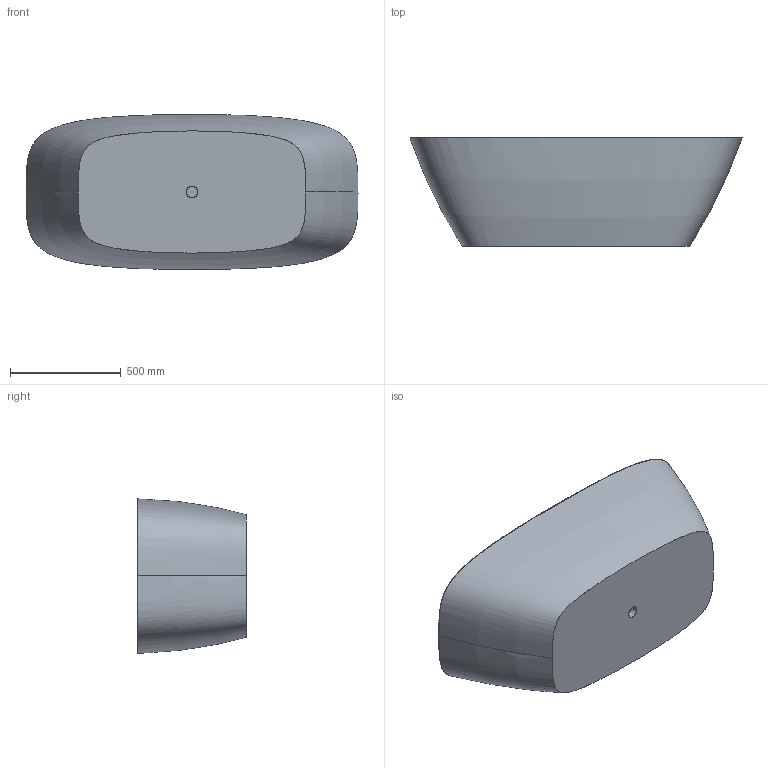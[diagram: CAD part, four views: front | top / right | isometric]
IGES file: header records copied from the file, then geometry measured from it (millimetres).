
Start section: SolidWorks IGES file using analytic representation for surfaces
Global section: file name: D:\Users\M.Szymanski\Desktop\Wanny\LaSenia\03. do przegrania\44\WP_LaSENIA_70x150x44.IGS; native system: SolidWorks 2011; preprocessor: SolidWorks 2011; author: M.Szymanski; date: 180530.111810; units: millimetre
Bounding box: 1499.5 x 490 x 699.84 mm (x, y, z)
Surface area: 4281751.6 mm2 (no closed solid volume)
Topology: 0 solids, 0 shells, 49 faces, 1369 edges, 1368 vertices
Faces by surface type: bspline 37, revolution 12
